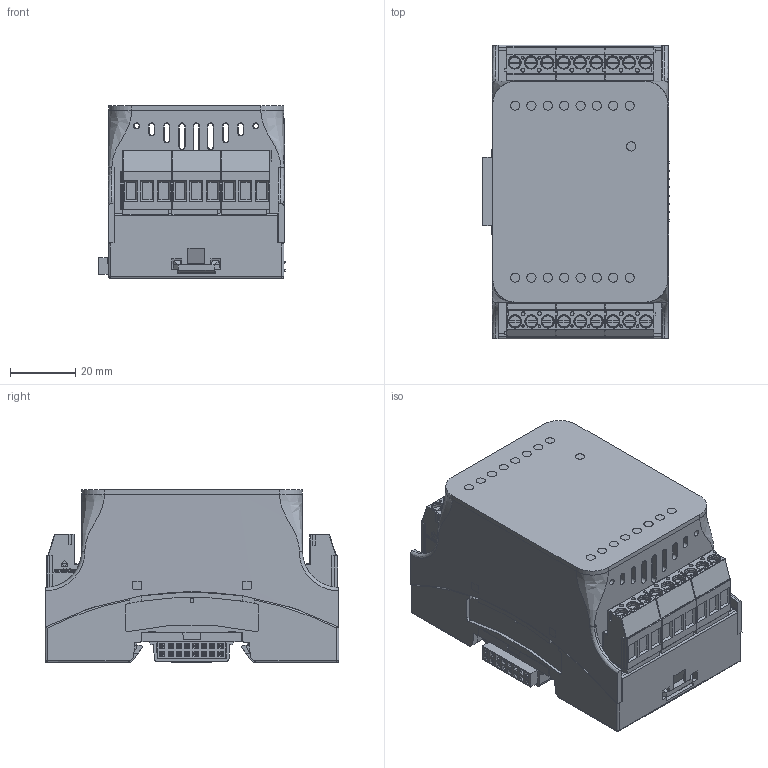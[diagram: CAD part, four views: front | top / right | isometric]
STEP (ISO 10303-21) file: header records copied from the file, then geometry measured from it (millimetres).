
FILE_DESCRIPTION(/* description */ (''),/* implementation_level */ '2;1');
FILE_NAME(/* name */ 'D:\WorkIMT\Project IMT\МВВ\v1\3D на сайт\16DI.stp',/* time_stamp */ '2026-06-09T08:43:50+03:00',/* author */ ('admin'),/* organization */ (''),/* preprocessor_version */ 'ST-DEVELOPER v17.2',/* originating_system */ 'Autodesk Inventor 2019',/* authorisation */ '');
FILE_SCHEMA (('AUTOMOTIVE_DESIGN { 1 0 10303 214 3 1 1 }'));
Products named in the file (1): MT.GARA-DIN.16DI.220V.XX.XX 2
Bounding box: 57.13 x 89.74 x 52.89 mm (x, y, z)
Volume: 68450.8 mm3; surface area: 75285.9 mm2
Topology: 1 solids, 56 shells, 7161 faces, 19758 edges, 12760 vertices
Faces by surface type: plane 5787, cylinder 749, bspline 223, cone 211, torus 140, sphere 51
Full cylindrical faces by diameter (mm): 0.2 x248, 0.3 x1, 1.2 x18, 1.8 x4, 2.2 x8, 4.05 x18
Entity records: 249606 total; most frequent: CARTESIAN_POINT 60269, ORIENTED_EDGE 39410, DIRECTION 35322, EDGE_CURVE 19705, LINE 15948, VECTOR 15948, VERTEX_POINT 12760, AXIS2_PLACEMENT_3D 9687
